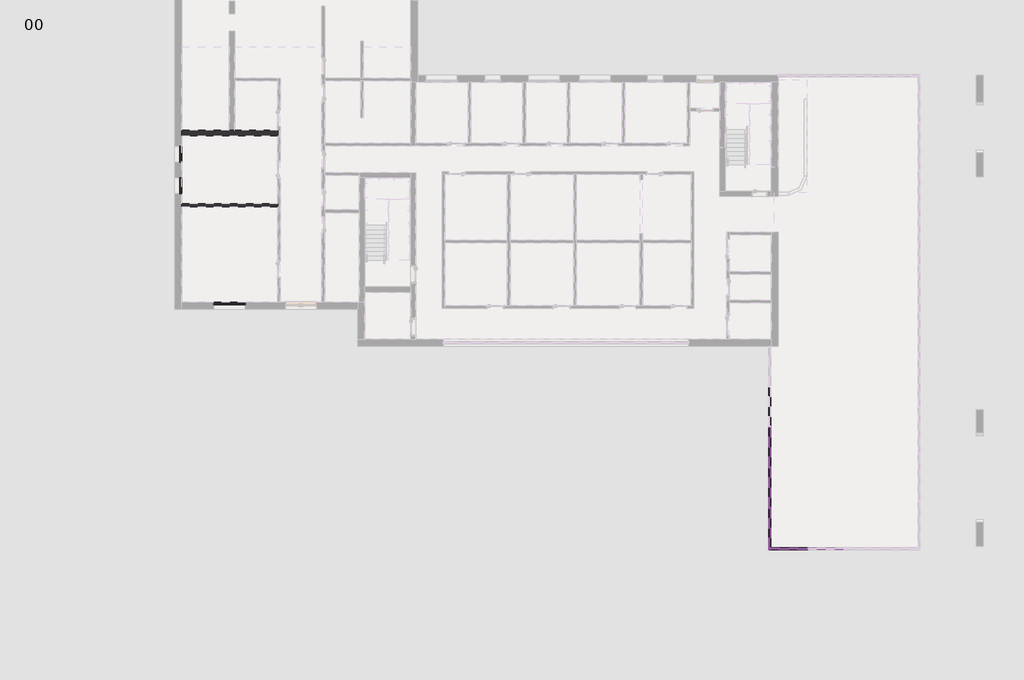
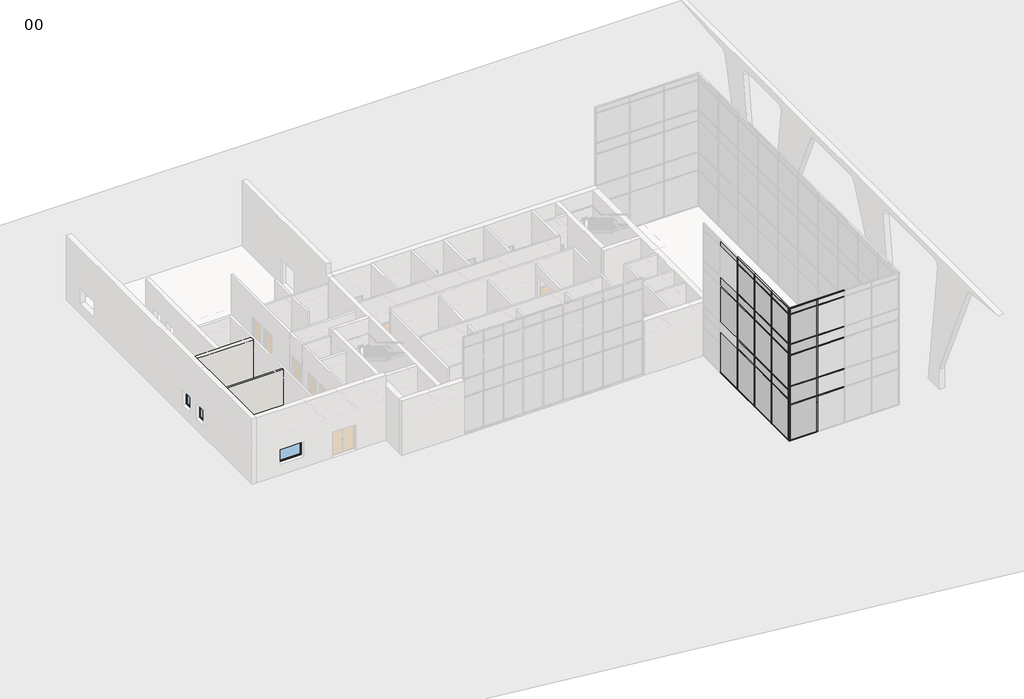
# One storey, part 1 of 11: 77 members, 28 plates, 3 windows, 2 walls.
"""IFC4 building model written with IfcOpenShell, lengths in millimetres."""

from ifc_helpers import new_model, si_unit, origin, origin_with_axes, place, context, project, spatial, polyline, outline, extrude, faceted_brep, transform, mapped, element, save
from components import rectangular_mullion_curtainwallmullion_rectangular_generic_8ae0e668, rectangular_mullion_curtainwallmullion_rectangular_generic_15c16c91, rectangular_mullion_curtainwallmullion_rectangular_generic_85ff6675, rectangular_mullion_curtainwallmullion_rectangular_generic_08fbcc14, rectangular_mullion_curtainwallmullion_rectangular_generic_83e55909, rectangular_mullion_curtainwallmullion_rectangular_generic_672c12ae, rectangular_mullion_curtainwallmullion_rectangular_generic_d5294c93, rectangular_mullion_curtainwallmullion_rectangular_generic_779ca808, rectangular_mullion_curtainwallmullion_rectangular_generic_5675a122, rectangular_mullion_curtainwallmullion_rectangular_generic_397fb318, rectangular_mullion_curtainwallmullion_rectangular_generic_8792b306, rectangular_mullion_curtainwallmullion_rectangular_generic_adcf4dab, rectangular_mullion_curtainwallmullion_rectangular_generic_bca74f28, rectangular_mullion_curtainwallmullion_rectangular_generic_1467ba8b, rectangular_mullion_curtainwallmullion_rectangular_generic_f1446028, rectangular_mullion_curtainwallmullion_rectangular_generic_0700f4c6, rectangular_mullion_curtainwallmullion_rectangular_generic_cb270087, rectangular_mullion_curtainwallmullion_rectangular_generic_974284e1, rectangular_mullion_curtainwallmullion_rectangular_generic_25199054, rectangular_mullion_curtainwallmullion_rectangular_generic_3fcc00f2, rectangular_mullion_curtainwallmullion_rectangular_generic_766165b3, rectangular_mullion_curtainwallmullion_rectangular_generic_b870b509, rectangular_mullion_curtainwallmullion_rectangular_generic_654ac675, rectangular_mullion_curtainwallmullion_rectangular_generic_e7c47ca9, rectangular_mullion_curtainwallmullion_rectangular_generic_c0600e94, rectangular_mullion_curtainwallmullion_rectangular_generic_3bdb59d8, rectangular_mullion_curtainwallmullion_rectangular_generic_aa8766cf, rectangular_mullion_curtainwallmullion_rectangular_generic_a50df724, rectangular_mullion_curtainwallmullion_rectangular_generic_c640f651, rectangular_mullion_curtainwallmullion_rectangular_generic_afb0b622, system_panel_curtainpanel_glazed_0bb81cda, system_panel_curtainpanel_glazed_3919c2a1, system_panel_curtainpanel_glazed_9120b6e5, system_panel_curtainpanel_glazed_c42a0534, system_panel_curtainpanel_glazed_a0842033, system_panel_curtainpanel_glazed_19b159b3, system_panel_curtainpanel_solid_62146879, system_panel_curtainpanel_solid_d52ec4f6, system_panel_curtainpanel_solid_bd7018df, system_panel_curtainpanel_solid_ebe6707a, system_panel_curtainpanel_solid_ff987cd1, windows_concept_plain_sgl_1810x1210mm_7f7241d7, windows_concept_plain_sgl_910x1210mm_ef0b7ad2

model = new_model("IFC4")

# Units and contexts
model_context = context("Model", 3, world=origin())
ifc_project = project(units=[si_unit("LENGTHUNIT", "METRE", prefix="MILLI")], contexts=[model_context])

# Site, building, storey
site = spatial("IfcSite", under=ifc_project)
building = spatial("IfcBuilding", under=site)
storey = spatial("IfcBuildingStorey", under=building, Name="00", Elevation=0.0)

# Members
placement = place(None, origin())
rectangular_mullion_curtainwallmullion_rectangular_generic_shape = rectangular_mullion_curtainwallmullion_rectangular_generic_8ae0e668(model_context)
element("IfcMember", 1, ObjectType="Rectangular Mullion : CurtainWallMullion_Rectangular_Generic", at=placement, inside=storey, context=model_context, shape_type="MappedRepresentation", body=[
    mapped(rectangular_mullion_curtainwallmullion_rectangular_generic_shape, transform((445668.3206883, -406013.8026384, 10486.7), x_axis=(0.0, 1.0, 0.0), y_axis=(1.0, 0.0, 0.0), z_axis=(0.0, 0.0, -1.0))),
])
element("IfcMember", 2, ObjectType="Rectangular Mullion : CurtainWallMullion_Rectangular_Generic", at=placement, inside=storey, context=model_context, shape_type="MappedRepresentation", body=[
    mapped(rectangular_mullion_curtainwallmullion_rectangular_generic_shape, transform((445668.3206883, -403686.6026385, 10486.7), x_axis=(0.0, 1.0, 0.0), y_axis=(1.0, 0.0, 0.0), z_axis=(0.0, 0.0, -1.0))),
])
element("IfcMember", 3, ObjectType="Rectangular Mullion : CurtainWallMullion_Rectangular_Generic", at=placement, inside=storey, context=model_context, shape_type="MappedRepresentation", body=[
    mapped(rectangular_mullion_curtainwallmullion_rectangular_generic_shape, transform((445668.3206883, -401359.4026387, 10486.7), x_axis=(0.0, 1.0, 0.0), y_axis=(1.0, 0.0, 0.0), z_axis=(0.0, 0.0, -1.0))),
])
element("IfcMember", 4, ObjectType="Rectangular Mullion : CurtainWallMullion_Rectangular_Generic", at=placement, inside=storey, context=model_context, shape_type="MappedRepresentation", body=[
    mapped(rectangular_mullion_curtainwallmullion_rectangular_generic_shape, transform((447825.3206885, -408366.0026386, 10486.7), x_axis=(-1.0, 0.0, 0.0), y_axis=(0.0, 1.0, 0.0), z_axis=(0.0, 0.0, -1.0))),
])
rectangular_mullion_curtainwallmullion_rectangular_generic_2_shape = rectangular_mullion_curtainwallmullion_rectangular_generic_15c16c91(model_context)
element("IfcMember", 5, ObjectType="Rectangular Mullion : CurtainWallMullion_Rectangular_Generic", at=placement, inside=storey, context=model_context, shape_type="MappedRepresentation", body=[
    mapped(rectangular_mullion_curtainwallmullion_rectangular_generic_2_shape, transform((445668.3206883, -408366.0026386, 10486.7), x_axis=(-1.0, 0.0, 0.0), y_axis=(0.0, 1.0, 0.0), z_axis=(0.0, 0.0, -1.0))),
])
element("IfcMember", 6, ObjectType="Rectangular Mullion : CurtainWallMullion_Rectangular_Generic", at=placement, inside=storey, context=model_context, shape_type="MappedRepresentation", body=[
    mapped(rectangular_mullion_curtainwallmullion_rectangular_generic_2_shape, transform((445668.3206883, -408366.0026386, 10950.0), x_axis=(0.0, -1.0, 0.0), y_axis=(1.0, 0.0, 0.0), z_axis=(0.0, 0.0, 1.0))),
])
rectangular_mullion_curtainwallmullion_rectangular_generic_3_shape = rectangular_mullion_curtainwallmullion_rectangular_generic_85ff6675(model_context)
element("IfcMember", 7, ObjectType="Rectangular Mullion : CurtainWallMullion_Rectangular_Generic", at=placement, inside=storey, context=model_context, shape_type="MappedRepresentation", body=[
    mapped(rectangular_mullion_curtainwallmullion_rectangular_generic_3_shape, transform((445668.3206883, -406013.8026384, 7225.0), x_axis=(0.0, 1.0, 0.0), y_axis=(1.0, 0.0, 0.0), z_axis=(0.0, 0.0, -1.0))),
])
element("IfcMember", 8, ObjectType="Rectangular Mullion : CurtainWallMullion_Rectangular_Generic", at=placement, inside=storey, context=model_context, shape_type="MappedRepresentation", body=[
    mapped(rectangular_mullion_curtainwallmullion_rectangular_generic_3_shape, transform((445668.3206883, -403686.6026385, 7225.0), x_axis=(0.0, 1.0, 0.0), y_axis=(1.0, 0.0, 0.0), z_axis=(0.0, 0.0, -1.0))),
])
element("IfcMember", 9, ObjectType="Rectangular Mullion : CurtainWallMullion_Rectangular_Generic", at=placement, inside=storey, context=model_context, shape_type="MappedRepresentation", body=[
    mapped(rectangular_mullion_curtainwallmullion_rectangular_generic_3_shape, transform((445668.3206883, -401359.4026387, 7225.0), x_axis=(0.0, 1.0, 0.0), y_axis=(1.0, 0.0, 0.0), z_axis=(0.0, 0.0, -1.0))),
])
element("IfcMember", 10, ObjectType="Rectangular Mullion : CurtainWallMullion_Rectangular_Generic", at=placement, inside=storey, context=model_context, shape_type="MappedRepresentation", body=[
    mapped(rectangular_mullion_curtainwallmullion_rectangular_generic_3_shape, transform((445668.3206883, -406013.8026384, 3425.0), x_axis=(0.0, 1.0, 0.0), y_axis=(1.0, 0.0, 0.0), z_axis=(0.0, 0.0, -1.0))),
])
element("IfcMember", 11, ObjectType="Rectangular Mullion : CurtainWallMullion_Rectangular_Generic", at=placement, inside=storey, context=model_context, shape_type="MappedRepresentation", body=[
    mapped(rectangular_mullion_curtainwallmullion_rectangular_generic_3_shape, transform((445668.3206883, -403686.6026385, 3425.0), x_axis=(0.0, 1.0, 0.0), y_axis=(1.0, 0.0, 0.0), z_axis=(0.0, 0.0, -1.0))),
])
element("IfcMember", 12, ObjectType="Rectangular Mullion : CurtainWallMullion_Rectangular_Generic", at=placement, inside=storey, context=model_context, shape_type="MappedRepresentation", body=[
    mapped(rectangular_mullion_curtainwallmullion_rectangular_generic_3_shape, transform((445668.3206883, -401359.4026387, 3425.0), x_axis=(0.0, 1.0, 0.0), y_axis=(1.0, 0.0, 0.0), z_axis=(0.0, 0.0, -1.0))),
])
rectangular_mullion_curtainwallmullion_rectangular_generic_4_shape = rectangular_mullion_curtainwallmullion_rectangular_generic_08fbcc14(model_context)
element("IfcMember", 13, ObjectType="Rectangular Mullion : CurtainWallMullion_Rectangular_Generic", at=placement, inside=storey, context=model_context, shape_type="MappedRepresentation", body=[
    mapped(rectangular_mullion_curtainwallmullion_rectangular_generic_4_shape, transform((445668.3206883, -406013.8026384, 8000.0), x_axis=(0.0, 1.0, 0.0), y_axis=(1.0, 0.0, 0.0), z_axis=(0.0, 0.0, -1.0))),
])
element("IfcMember", 14, ObjectType="Rectangular Mullion : CurtainWallMullion_Rectangular_Generic", at=placement, inside=storey, context=model_context, shape_type="MappedRepresentation", body=[
    mapped(rectangular_mullion_curtainwallmullion_rectangular_generic_4_shape, transform((445668.3206883, -403686.6026385, 8000.0), x_axis=(0.0, 1.0, 0.0), y_axis=(1.0, 0.0, 0.0), z_axis=(0.0, 0.0, -1.0))),
])
element("IfcMember", 15, ObjectType="Rectangular Mullion : CurtainWallMullion_Rectangular_Generic", at=placement, inside=storey, context=model_context, shape_type="MappedRepresentation", body=[
    mapped(rectangular_mullion_curtainwallmullion_rectangular_generic_4_shape, transform((445668.3206883, -401359.4026387, 8000.0), x_axis=(0.0, 1.0, 0.0), y_axis=(1.0, 0.0, 0.0), z_axis=(0.0, 0.0, -1.0))),
])
element("IfcMember", 16, ObjectType="Rectangular Mullion : CurtainWallMullion_Rectangular_Generic", at=placement, inside=storey, context=model_context, shape_type="MappedRepresentation", body=[
    mapped(rectangular_mullion_curtainwallmullion_rectangular_generic_4_shape, transform((447825.3206885, -408366.0026386, 8000.0), x_axis=(-1.0, 0.0, 0.0), y_axis=(0.0, 1.0, 0.0), z_axis=(0.0, 0.0, -1.0))),
])
rectangular_mullion_curtainwallmullion_rectangular_generic_5_shape = rectangular_mullion_curtainwallmullion_rectangular_generic_83e55909(model_context)
element("IfcMember", 17, ObjectType="Rectangular Mullion : CurtainWallMullion_Rectangular_Generic", at=placement, inside=storey, context=model_context, shape_type="MappedRepresentation", body=[
    mapped(rectangular_mullion_curtainwallmullion_rectangular_generic_5_shape, transform((445668.3206883, -408366.0026386, 10486.7), x_axis=(0.0, -1.0, 0.0), y_axis=(1.0, 0.0, 0.0), z_axis=(0.0, 0.0, 1.0))),
])
element("IfcMember", 18, ObjectType="Rectangular Mullion : CurtainWallMullion_Rectangular_Generic", at=placement, inside=storey, context=model_context, shape_type="MappedRepresentation", body=[
    mapped(rectangular_mullion_curtainwallmullion_rectangular_generic_5_shape, transform((445668.3206883, -408366.0026386, 8000.0), x_axis=(-1.0, 0.0, 0.0), y_axis=(0.0, 1.0, 0.0), z_axis=(0.0, 0.0, -1.0))),
])
rectangular_mullion_curtainwallmullion_rectangular_generic_6_shape = rectangular_mullion_curtainwallmullion_rectangular_generic_672c12ae(model_context)
element("IfcMember", 19, ObjectType="Rectangular Mullion : CurtainWallMullion_Rectangular_Generic", at=placement, inside=storey, context=model_context, shape_type="MappedRepresentation", body=[
    mapped(rectangular_mullion_curtainwallmullion_rectangular_generic_6_shape, transform((445668.3206883, -408366.0026386, 4200.0), x_axis=(0.0, -1.0, 0.0), y_axis=(1.0, 0.0, 0.0), z_axis=(0.0, 0.0, 1.0))),
])
element("IfcMember", 20, ObjectType="Rectangular Mullion : CurtainWallMullion_Rectangular_Generic", at=placement, inside=storey, context=model_context, shape_type="MappedRepresentation", body=[
    mapped(rectangular_mullion_curtainwallmullion_rectangular_generic_6_shape, transform((445668.3206883, -408366.0026386, 8000.0), x_axis=(0.0, -1.0, 0.0), y_axis=(1.0, 0.0, 0.0), z_axis=(0.0, 0.0, 1.0))),
])
rectangular_mullion_curtainwallmullion_rectangular_generic_7_shape = rectangular_mullion_curtainwallmullion_rectangular_generic_d5294c93(model_context)
element("IfcMember", 21, ObjectType="Rectangular Mullion : CurtainWallMullion_Rectangular_Generic", at=placement, inside=storey, context=model_context, shape_type="MappedRepresentation", body=[
    mapped(rectangular_mullion_curtainwallmullion_rectangular_generic_7_shape, transform((447825.3206885, -408366.0026386, 50.0), x_axis=(-1.0, 0.0, 0.0), y_axis=(0.0, 1.0, 0.0), z_axis=(0.0, 0.0, -1.0))),
])
rectangular_mullion_curtainwallmullion_rectangular_generic_8_shape = rectangular_mullion_curtainwallmullion_rectangular_generic_779ca808(model_context)
element("IfcMember", 22, ObjectType="Rectangular Mullion : CurtainWallMullion_Rectangular_Generic", at=placement, inside=storey, context=model_context, shape_type="MappedRepresentation", body=[
    mapped(rectangular_mullion_curtainwallmullion_rectangular_generic_8_shape, transform((445668.3206883, -408366.0026386, 50.0), x_axis=(-1.0, 0.0, 0.0), y_axis=(0.0, 1.0, 0.0), z_axis=(0.0, 0.0, -1.0))),
])
rectangular_mullion_curtainwallmullion_rectangular_generic_9_shape = rectangular_mullion_curtainwallmullion_rectangular_generic_5675a122(model_context)
element("IfcMember", 23, ObjectType="Rectangular Mullion : CurtainWallMullion_Rectangular_Generic", at=placement, inside=storey, context=model_context, shape_type="MappedRepresentation", body=[
    mapped(rectangular_mullion_curtainwallmullion_rectangular_generic_9_shape, transform((445668.3206883, -406013.8026384, 50.0), x_axis=(0.0, 1.0, 0.0), y_axis=(1.0, 0.0, 0.0), z_axis=(0.0, 0.0, -1.0))),
])
element("IfcMember", 24, ObjectType="Rectangular Mullion : CurtainWallMullion_Rectangular_Generic", at=placement, inside=storey, context=model_context, shape_type="MappedRepresentation", body=[
    mapped(rectangular_mullion_curtainwallmullion_rectangular_generic_9_shape, transform((445668.3206883, -403686.6026385, 50.0), x_axis=(0.0, 1.0, 0.0), y_axis=(1.0, 0.0, 0.0), z_axis=(0.0, 0.0, -1.0))),
])
element("IfcMember", 25, ObjectType="Rectangular Mullion : CurtainWallMullion_Rectangular_Generic", at=placement, inside=storey, context=model_context, shape_type="MappedRepresentation", body=[
    mapped(rectangular_mullion_curtainwallmullion_rectangular_generic_9_shape, transform((445668.3206883, -401359.4026387, 50.0), x_axis=(0.0, 1.0, 0.0), y_axis=(1.0, 0.0, 0.0), z_axis=(0.0, 0.0, -1.0))),
])
rectangular_mullion_curtainwallmullion_rectangular_generic_10_shape = rectangular_mullion_curtainwallmullion_rectangular_generic_397fb318(model_context)
element("IfcMember", 26, ObjectType="Rectangular Mullion : CurtainWallMullion_Rectangular_Generic", at=placement, inside=storey, context=model_context, shape_type="MappedRepresentation", body=[
    mapped(rectangular_mullion_curtainwallmullion_rectangular_generic_10_shape, transform((445668.3206883, -408366.0026386, 2425.0), x_axis=(0.0, -1.0, 0.0), y_axis=(1.0, 0.0, 0.0), z_axis=(0.0, 0.0, 1.0))),
])
rectangular_mullion_curtainwallmullion_rectangular_generic_11_shape = rectangular_mullion_curtainwallmullion_rectangular_generic_8792b306(model_context)
element("IfcMember", 27, ObjectType="Rectangular Mullion : CurtainWallMullion_Rectangular_Generic", at=placement, inside=storey, context=model_context, shape_type="MappedRepresentation", body=[
    mapped(rectangular_mullion_curtainwallmullion_rectangular_generic_11_shape, transform((445668.3206883, -406013.8026384, 4200.0), x_axis=(0.0, 1.0, 0.0), y_axis=(1.0, 0.0, 0.0), z_axis=(0.0, 0.0, -1.0))),
])
element("IfcMember", 28, ObjectType="Rectangular Mullion : CurtainWallMullion_Rectangular_Generic", at=placement, inside=storey, context=model_context, shape_type="MappedRepresentation", body=[
    mapped(rectangular_mullion_curtainwallmullion_rectangular_generic_11_shape, transform((445668.3206883, -403686.6026385, 4200.0), x_axis=(0.0, 1.0, 0.0), y_axis=(1.0, 0.0, 0.0), z_axis=(0.0, 0.0, -1.0))),
])
element("IfcMember", 29, ObjectType="Rectangular Mullion : CurtainWallMullion_Rectangular_Generic", at=placement, inside=storey, context=model_context, shape_type="MappedRepresentation", body=[
    mapped(rectangular_mullion_curtainwallmullion_rectangular_generic_11_shape, transform((445668.3206883, -401359.4026387, 4200.0), x_axis=(0.0, 1.0, 0.0), y_axis=(1.0, 0.0, 0.0), z_axis=(0.0, 0.0, -1.0))),
])
rectangular_mullion_curtainwallmullion_rectangular_generic_12_shape = rectangular_mullion_curtainwallmullion_rectangular_generic_adcf4dab(model_context)
element("IfcMember", 30, ObjectType="Rectangular Mullion : CurtainWallMullion_Rectangular_Generic", at=placement, inside=storey, context=model_context, shape_type="MappedRepresentation", body=[
    mapped(rectangular_mullion_curtainwallmullion_rectangular_generic_12_shape, transform((445668.3206883, -408366.0026386, 7225.0), x_axis=(0.0, -1.0, 0.0), y_axis=(1.0, 0.0, 0.0), z_axis=(0.0, 0.0, 1.0))),
])
rectangular_mullion_curtainwallmullion_rectangular_generic_13_shape = rectangular_mullion_curtainwallmullion_rectangular_generic_bca74f28(model_context)
element("IfcMember", 31, ObjectType="Rectangular Mullion : CurtainWallMullion_Rectangular_Generic", at=placement, inside=storey, context=model_context, shape_type="MappedRepresentation", body=[
    mapped(rectangular_mullion_curtainwallmullion_rectangular_generic_13_shape, transform((445668.3206883, -406013.8026384, 2425.0), x_axis=(0.0, 1.0, 0.0), y_axis=(1.0, 0.0, 0.0), z_axis=(0.0, 0.0, -1.0))),
])
element("IfcMember", 32, ObjectType="Rectangular Mullion : CurtainWallMullion_Rectangular_Generic", at=placement, inside=storey, context=model_context, shape_type="MappedRepresentation", body=[
    mapped(rectangular_mullion_curtainwallmullion_rectangular_generic_13_shape, transform((445668.3206883, -403686.6026385, 2425.0), x_axis=(0.0, 1.0, 0.0), y_axis=(1.0, 0.0, 0.0), z_axis=(0.0, 0.0, -1.0))),
])
element("IfcMember", 33, ObjectType="Rectangular Mullion : CurtainWallMullion_Rectangular_Generic", at=placement, inside=storey, context=model_context, shape_type="MappedRepresentation", body=[
    mapped(rectangular_mullion_curtainwallmullion_rectangular_generic_13_shape, transform((445668.3206883, -401359.4026387, 2425.0), x_axis=(0.0, 1.0, 0.0), y_axis=(1.0, 0.0, 0.0), z_axis=(0.0, 0.0, -1.0))),
])
rectangular_mullion_curtainwallmullion_rectangular_generic_14_shape = rectangular_mullion_curtainwallmullion_rectangular_generic_1467ba8b(model_context)
element("IfcMember", 34, ObjectType="Rectangular Mullion : CurtainWallMullion_Rectangular_Generic", at=placement, inside=storey, context=model_context, shape_type="MappedRepresentation", body=[
    mapped(rectangular_mullion_curtainwallmullion_rectangular_generic_14_shape, transform((445668.3206883, -408366.0026386, 3425.0), x_axis=(0.0, -1.0, 0.0), y_axis=(1.0, 0.0, 0.0), z_axis=(0.0, 0.0, 1.0))),
])
rectangular_mullion_curtainwallmullion_rectangular_generic_15_shape = rectangular_mullion_curtainwallmullion_rectangular_generic_f1446028(model_context)
element("IfcMember", 35, ObjectType="Rectangular Mullion : CurtainWallMullion_Rectangular_Generic", at=placement, inside=storey, context=model_context, shape_type="MappedRepresentation", body=[
    mapped(rectangular_mullion_curtainwallmullion_rectangular_generic_15_shape, transform((445668.3206883, -408366.0026386, 11000.0), x_axis=(0.0, 0.0, 1.0), y_axis=(0.0, 1.0, 0.0), z_axis=(-1.0, 0.0, 0.0))),
])
rectangular_mullion_curtainwallmullion_rectangular_generic_16_shape = rectangular_mullion_curtainwallmullion_rectangular_generic_0700f4c6(model_context)
element("IfcMember", 36, ObjectType="Rectangular Mullion : CurtainWallMullion_Rectangular_Generic", at=placement, inside=storey, context=model_context, shape_type="MappedRepresentation", body=[
    mapped(rectangular_mullion_curtainwallmullion_rectangular_generic_16_shape, transform((445668.3206883, -406013.8026384, 11000.0), x_axis=(0.0, 0.0, 1.0), y_axis=(1.0, 0.0, 0.0), z_axis=(0.0, 1.0, 0.0))),
])
rectangular_mullion_curtainwallmullion_rectangular_generic_17_shape = rectangular_mullion_curtainwallmullion_rectangular_generic_cb270087(model_context)
element("IfcMember", 37, ObjectType="Rectangular Mullion : CurtainWallMullion_Rectangular_Generic", at=placement, inside=storey, context=model_context, shape_type="MappedRepresentation", body=[
    mapped(rectangular_mullion_curtainwallmullion_rectangular_generic_17_shape, transform((447825.3206885, -408366.0026386, 11000.0), x_axis=(0.0, 0.0, 1.0), y_axis=(0.0, 1.0, 0.0), z_axis=(-1.0, 0.0, 0.0))),
])
rectangular_mullion_curtainwallmullion_rectangular_generic_18_shape = rectangular_mullion_curtainwallmullion_rectangular_generic_974284e1(model_context)
element("IfcMember", 38, ObjectType="Rectangular Mullion : CurtainWallMullion_Rectangular_Generic", at=placement, inside=storey, context=model_context, shape_type="MappedRepresentation", body=[
    mapped(rectangular_mullion_curtainwallmullion_rectangular_generic_18_shape, transform((447850.3206885, -408366.0026386, 4500.0), x_axis=(0.0, 0.0, 1.0), y_axis=(0.0, 1.0, 0.0), z_axis=(-1.0, 0.0, 0.0))),
])
element("IfcMember", 39, ObjectType="Rectangular Mullion : CurtainWallMullion_Rectangular_Generic", at=placement, inside=storey, context=model_context, shape_type="MappedRepresentation", body=[
    mapped(rectangular_mullion_curtainwallmullion_rectangular_generic_18_shape, transform((447850.3206885, -408366.0026386, 7100.0), x_axis=(0.0, 0.0, 1.0), y_axis=(0.0, 1.0, 0.0), z_axis=(-1.0, 0.0, 0.0))),
])
element("IfcMember", 40, ObjectType="Rectangular Mullion : CurtainWallMullion_Rectangular_Generic", at=placement, inside=storey, context=model_context, shape_type="MappedRepresentation", body=[
    mapped(rectangular_mullion_curtainwallmullion_rectangular_generic_18_shape, transform((447850.3206885, -408366.0026386, 10486.7), x_axis=(0.0, 0.0, 1.0), y_axis=(0.0, 1.0, 0.0), z_axis=(-1.0, 0.0, 0.0))),
])
element("IfcMember", 41, ObjectType="Rectangular Mullion : CurtainWallMullion_Rectangular_Generic", at=placement, inside=storey, context=model_context, shape_type="MappedRepresentation", body=[
    mapped(rectangular_mullion_curtainwallmullion_rectangular_generic_18_shape, transform((447850.3206885, -408366.0026386, 3000.0), x_axis=(0.0, 0.0, 1.0), y_axis=(0.0, 1.0, 0.0), z_axis=(-1.0, 0.0, 0.0))),
])
element("IfcMember", 42, ObjectType="Rectangular Mullion : CurtainWallMullion_Rectangular_Generic", at=placement, inside=storey, context=model_context, shape_type="MappedRepresentation", body=[
    mapped(rectangular_mullion_curtainwallmullion_rectangular_generic_18_shape, transform((447850.3206885, -408366.0026386, 8000.0), x_axis=(0.0, 0.0, 1.0), y_axis=(0.0, 1.0, 0.0), z_axis=(-1.0, 0.0, 0.0))),
])
element("IfcMember", 43, ObjectType="Rectangular Mullion : CurtainWallMullion_Rectangular_Generic", at=placement, inside=storey, context=model_context, shape_type="MappedRepresentation", body=[
    mapped(rectangular_mullion_curtainwallmullion_rectangular_generic_18_shape, transform((445718.3206883, -408366.0026386, 4500.0), x_axis=(0.0, 0.0, 1.0), y_axis=(0.0, 1.0, 0.0), z_axis=(-1.0, 0.0, 0.0))),
])
element("IfcMember", 44, ObjectType="Rectangular Mullion : CurtainWallMullion_Rectangular_Generic", at=placement, inside=storey, context=model_context, shape_type="MappedRepresentation", body=[
    mapped(rectangular_mullion_curtainwallmullion_rectangular_generic_18_shape, transform((445718.3206883, -408366.0026386, 7100.0), x_axis=(0.0, 0.0, 1.0), y_axis=(0.0, 1.0, 0.0), z_axis=(-1.0, 0.0, 0.0))),
])
element("IfcMember", 45, ObjectType="Rectangular Mullion : CurtainWallMullion_Rectangular_Generic", at=placement, inside=storey, context=model_context, shape_type="MappedRepresentation", body=[
    mapped(rectangular_mullion_curtainwallmullion_rectangular_generic_18_shape, transform((445718.3206883, -408366.0026386, 10486.7), x_axis=(0.0, 0.0, 1.0), y_axis=(0.0, 1.0, 0.0), z_axis=(-1.0, 0.0, 0.0))),
])
element("IfcMember", 46, ObjectType="Rectangular Mullion : CurtainWallMullion_Rectangular_Generic", at=placement, inside=storey, context=model_context, shape_type="MappedRepresentation", body=[
    mapped(rectangular_mullion_curtainwallmullion_rectangular_generic_18_shape, transform((445718.3206883, -408366.0026386, 3000.0), x_axis=(0.0, 0.0, 1.0), y_axis=(0.0, 1.0, 0.0), z_axis=(-1.0, 0.0, 0.0))),
])
element("IfcMember", 47, ObjectType="Rectangular Mullion : CurtainWallMullion_Rectangular_Generic", at=placement, inside=storey, context=model_context, shape_type="MappedRepresentation", body=[
    mapped(rectangular_mullion_curtainwallmullion_rectangular_generic_18_shape, transform((445718.3206883, -408366.0026386, 8000.0), x_axis=(0.0, 0.0, 1.0), y_axis=(0.0, 1.0, 0.0), z_axis=(-1.0, 0.0, 0.0))),
])
rectangular_mullion_curtainwallmullion_rectangular_generic_19_shape = rectangular_mullion_curtainwallmullion_rectangular_generic_25199054(model_context)
element("IfcMember", 48, ObjectType="Rectangular Mullion : CurtainWallMullion_Rectangular_Generic", at=placement, inside=storey, context=model_context, shape_type="MappedRepresentation", body=[
    mapped(rectangular_mullion_curtainwallmullion_rectangular_generic_19_shape, transform((447825.3206885, -408366.0026386, 0.0), x_axis=(0.0, 0.0, -1.0), y_axis=(0.0, 1.0, 0.0), z_axis=(1.0, 0.0, 0.0))),
])
rectangular_mullion_curtainwallmullion_rectangular_generic_20_shape = rectangular_mullion_curtainwallmullion_rectangular_generic_3fcc00f2(model_context)
element("IfcMember", 49, ObjectType="Rectangular Mullion : CurtainWallMullion_Rectangular_Generic", at=placement, inside=storey, context=model_context, shape_type="MappedRepresentation", body=[
    mapped(rectangular_mullion_curtainwallmullion_rectangular_generic_20_shape, transform((445668.3206883, -408366.0026386, 0.0), x_axis=(0.0, 0.0, -1.0), y_axis=(1.0, 0.0, 0.0), z_axis=(0.0, -1.0, 0.0))),
])
rectangular_mullion_curtainwallmullion_rectangular_generic_21_shape = rectangular_mullion_curtainwallmullion_rectangular_generic_766165b3(model_context)
element("IfcMember", 50, ObjectType="Rectangular Mullion : CurtainWallMullion_Rectangular_Generic", at=placement, inside=storey, context=model_context, shape_type="MappedRepresentation", body=[
    mapped(rectangular_mullion_curtainwallmullion_rectangular_generic_21_shape, transform((445668.3206883, -403686.6026385, 11000.0), x_axis=(0.0, 0.0, 1.0), y_axis=(1.0, 0.0, 0.0), z_axis=(0.0, 1.0, 0.0))),
])
element("IfcMember", 51, ObjectType="Rectangular Mullion : CurtainWallMullion_Rectangular_Generic", at=placement, inside=storey, context=model_context, shape_type="MappedRepresentation", body=[
    mapped(rectangular_mullion_curtainwallmullion_rectangular_generic_21_shape, transform((445668.3206883, -401359.4026387, 11000.0), x_axis=(0.0, 0.0, 1.0), y_axis=(1.0, 0.0, 0.0), z_axis=(0.0, 1.0, 0.0))),
])
element("IfcMember", 52, ObjectType="Rectangular Mullion : CurtainWallMullion_Rectangular_Generic", at=placement, inside=storey, context=model_context, shape_type="MappedRepresentation", body=[
    mapped(rectangular_mullion_curtainwallmullion_rectangular_generic_21_shape, transform((445668.3206883, -406013.8026384, 0.0), x_axis=(0.0, 0.0, -1.0), y_axis=(1.0, 0.0, 0.0), z_axis=(0.0, -1.0, 0.0))),
])
element("IfcMember", 53, ObjectType="Rectangular Mullion : CurtainWallMullion_Rectangular_Generic", at=placement, inside=storey, context=model_context, shape_type="MappedRepresentation", body=[
    mapped(rectangular_mullion_curtainwallmullion_rectangular_generic_21_shape, transform((445668.3206883, -403686.6026385, 0.0), x_axis=(0.0, 0.0, -1.0), y_axis=(1.0, 0.0, 0.0), z_axis=(0.0, -1.0, 0.0))),
])
element("IfcMember", 54, ObjectType="Rectangular Mullion : CurtainWallMullion_Rectangular_Generic", at=placement, inside=storey, context=model_context, shape_type="MappedRepresentation", body=[
    mapped(rectangular_mullion_curtainwallmullion_rectangular_generic_21_shape, transform((445668.3206883, -401359.4026387, 0.0), x_axis=(0.0, 0.0, -1.0), y_axis=(1.0, 0.0, 0.0), z_axis=(0.0, -1.0, 0.0))),
])
rectangular_mullion_curtainwallmullion_rectangular_generic_22_shape = rectangular_mullion_curtainwallmullion_rectangular_generic_b870b509(model_context)
element("IfcMember", 55, ObjectType="Rectangular Mullion : CurtainWallMullion_Rectangular_Generic", at=placement, inside=storey, context=model_context, shape_type="MappedRepresentation", body=[
    mapped(rectangular_mullion_curtainwallmullion_rectangular_generic_22_shape, transform((445668.3206883, -406038.8026384, 4200.0), x_axis=(0.0, 0.0, 1.0), y_axis=(1.0, 0.0, 0.0), z_axis=(0.0, 1.0, 0.0))),
])
element("IfcMember", 56, ObjectType="Rectangular Mullion : CurtainWallMullion_Rectangular_Generic", at=placement, inside=storey, context=model_context, shape_type="MappedRepresentation", body=[
    mapped(rectangular_mullion_curtainwallmullion_rectangular_generic_22_shape, transform((445668.3206883, -403711.6026385, 4200.0), x_axis=(0.0, 0.0, 1.0), y_axis=(1.0, 0.0, 0.0), z_axis=(0.0, 1.0, 0.0))),
])
element("IfcMember", 57, ObjectType="Rectangular Mullion : CurtainWallMullion_Rectangular_Generic", at=placement, inside=storey, context=model_context, shape_type="MappedRepresentation", body=[
    mapped(rectangular_mullion_curtainwallmullion_rectangular_generic_22_shape, transform((445668.3206883, -401384.4026387, 4200.0), x_axis=(0.0, 0.0, 1.0), y_axis=(1.0, 0.0, 0.0), z_axis=(0.0, 1.0, 0.0))),
])
element("IfcMember", 58, ObjectType="Rectangular Mullion : CurtainWallMullion_Rectangular_Generic", at=placement, inside=storey, context=model_context, shape_type="MappedRepresentation", body=[
    mapped(rectangular_mullion_curtainwallmullion_rectangular_generic_22_shape, transform((445668.3206883, -406038.8026384, 7225.0), x_axis=(0.0, 0.0, 1.0), y_axis=(1.0, 0.0, 0.0), z_axis=(0.0, 1.0, 0.0))),
])
element("IfcMember", 59, ObjectType="Rectangular Mullion : CurtainWallMullion_Rectangular_Generic", at=placement, inside=storey, context=model_context, shape_type="MappedRepresentation", body=[
    mapped(rectangular_mullion_curtainwallmullion_rectangular_generic_22_shape, transform((445668.3206883, -403711.6026385, 7225.0), x_axis=(0.0, 0.0, 1.0), y_axis=(1.0, 0.0, 0.0), z_axis=(0.0, 1.0, 0.0))),
])
element("IfcMember", 60, ObjectType="Rectangular Mullion : CurtainWallMullion_Rectangular_Generic", at=placement, inside=storey, context=model_context, shape_type="MappedRepresentation", body=[
    mapped(rectangular_mullion_curtainwallmullion_rectangular_generic_22_shape, transform((445668.3206883, -401384.4026387, 7225.0), x_axis=(0.0, 0.0, 1.0), y_axis=(1.0, 0.0, 0.0), z_axis=(0.0, 1.0, 0.0))),
])
element("IfcMember", 61, ObjectType="Rectangular Mullion : CurtainWallMullion_Rectangular_Generic", at=placement, inside=storey, context=model_context, shape_type="MappedRepresentation", body=[
    mapped(rectangular_mullion_curtainwallmullion_rectangular_generic_22_shape, transform((445668.3206883, -406038.8026384, 10486.7), x_axis=(0.0, 0.0, 1.0), y_axis=(1.0, 0.0, 0.0), z_axis=(0.0, 1.0, 0.0))),
])
element("IfcMember", 62, ObjectType="Rectangular Mullion : CurtainWallMullion_Rectangular_Generic", at=placement, inside=storey, context=model_context, shape_type="MappedRepresentation", body=[
    mapped(rectangular_mullion_curtainwallmullion_rectangular_generic_22_shape, transform((445668.3206883, -403711.6026385, 10486.7), x_axis=(0.0, 0.0, 1.0), y_axis=(1.0, 0.0, 0.0), z_axis=(0.0, 1.0, 0.0))),
])
element("IfcMember", 63, ObjectType="Rectangular Mullion : CurtainWallMullion_Rectangular_Generic", at=placement, inside=storey, context=model_context, shape_type="MappedRepresentation", body=[
    mapped(rectangular_mullion_curtainwallmullion_rectangular_generic_22_shape, transform((445668.3206883, -401384.4026387, 10486.7), x_axis=(0.0, 0.0, 1.0), y_axis=(1.0, 0.0, 0.0), z_axis=(0.0, 1.0, 0.0))),
])
element("IfcMember", 64, ObjectType="Rectangular Mullion : CurtainWallMullion_Rectangular_Generic", at=placement, inside=storey, context=model_context, shape_type="MappedRepresentation", body=[
    mapped(rectangular_mullion_curtainwallmullion_rectangular_generic_22_shape, transform((445668.3206883, -406038.8026384, 3425.0), x_axis=(0.0, 0.0, 1.0), y_axis=(1.0, 0.0, 0.0), z_axis=(0.0, 1.0, 0.0))),
])
element("IfcMember", 65, ObjectType="Rectangular Mullion : CurtainWallMullion_Rectangular_Generic", at=placement, inside=storey, context=model_context, shape_type="MappedRepresentation", body=[
    mapped(rectangular_mullion_curtainwallmullion_rectangular_generic_22_shape, transform((445668.3206883, -403711.6026385, 3425.0), x_axis=(0.0, 0.0, 1.0), y_axis=(1.0, 0.0, 0.0), z_axis=(0.0, 1.0, 0.0))),
])
element("IfcMember", 66, ObjectType="Rectangular Mullion : CurtainWallMullion_Rectangular_Generic", at=placement, inside=storey, context=model_context, shape_type="MappedRepresentation", body=[
    mapped(rectangular_mullion_curtainwallmullion_rectangular_generic_22_shape, transform((445668.3206883, -401384.4026387, 3425.0), x_axis=(0.0, 0.0, 1.0), y_axis=(1.0, 0.0, 0.0), z_axis=(0.0, 1.0, 0.0))),
])
element("IfcMember", 67, ObjectType="Rectangular Mullion : CurtainWallMullion_Rectangular_Generic", at=placement, inside=storey, context=model_context, shape_type="MappedRepresentation", body=[
    mapped(rectangular_mullion_curtainwallmullion_rectangular_generic_22_shape, transform((445668.3206883, -406038.8026384, 8000.0), x_axis=(0.0, 0.0, 1.0), y_axis=(1.0, 0.0, 0.0), z_axis=(0.0, 1.0, 0.0))),
])
element("IfcMember", 68, ObjectType="Rectangular Mullion : CurtainWallMullion_Rectangular_Generic", at=placement, inside=storey, context=model_context, shape_type="MappedRepresentation", body=[
    mapped(rectangular_mullion_curtainwallmullion_rectangular_generic_22_shape, transform((445668.3206883, -403711.6026385, 8000.0), x_axis=(0.0, 0.0, 1.0), y_axis=(1.0, 0.0, 0.0), z_axis=(0.0, 1.0, 0.0))),
])
element("IfcMember", 69, ObjectType="Rectangular Mullion : CurtainWallMullion_Rectangular_Generic", at=placement, inside=storey, context=model_context, shape_type="MappedRepresentation", body=[
    mapped(rectangular_mullion_curtainwallmullion_rectangular_generic_22_shape, transform((445668.3206883, -401384.4026387, 8000.0), x_axis=(0.0, 0.0, 1.0), y_axis=(1.0, 0.0, 0.0), z_axis=(0.0, 1.0, 0.0))),
])
rectangular_mullion_curtainwallmullion_rectangular_generic_23_shape = rectangular_mullion_curtainwallmullion_rectangular_generic_654ac675(model_context)
element("IfcMember", 70, ObjectType="Rectangular Mullion : CurtainWallMullion_Rectangular_Generic", at=placement, inside=storey, context=model_context, shape_type="MappedRepresentation", body=[
    mapped(rectangular_mullion_curtainwallmullion_rectangular_generic_23_shape, transform((447825.3206885, -408366.0026386, 4500.0), x_axis=(-1.0, 0.0, 0.0), y_axis=(0.0, 1.0, 0.0), z_axis=(0.0, 0.0, -1.0))),
])
rectangular_mullion_curtainwallmullion_rectangular_generic_24_shape = rectangular_mullion_curtainwallmullion_rectangular_generic_e7c47ca9(model_context)
element("IfcMember", 71, ObjectType="Rectangular Mullion : CurtainWallMullion_Rectangular_Generic", at=placement, inside=storey, context=model_context, shape_type="MappedRepresentation", body=[
    mapped(rectangular_mullion_curtainwallmullion_rectangular_generic_24_shape, transform((445668.3206883, -408366.0026386, 4500.0), x_axis=(-1.0, 0.0, 0.0), y_axis=(0.0, 1.0, 0.0), z_axis=(0.0, 0.0, -1.0))),
])
rectangular_mullion_curtainwallmullion_rectangular_generic_25_shape = rectangular_mullion_curtainwallmullion_rectangular_generic_c0600e94(model_context)
element("IfcMember", 72, ObjectType="Rectangular Mullion : CurtainWallMullion_Rectangular_Generic", at=placement, inside=storey, context=model_context, shape_type="MappedRepresentation", body=[
    mapped(rectangular_mullion_curtainwallmullion_rectangular_generic_25_shape, transform((447825.3206885, -408366.0026386, 3000.0), x_axis=(-1.0, 0.0, 0.0), y_axis=(0.0, 1.0, 0.0), z_axis=(0.0, 0.0, -1.0))),
])
rectangular_mullion_curtainwallmullion_rectangular_generic_26_shape = rectangular_mullion_curtainwallmullion_rectangular_generic_3bdb59d8(model_context)
element("IfcMember", 73, ObjectType="Rectangular Mullion : CurtainWallMullion_Rectangular_Generic", at=placement, inside=storey, context=model_context, shape_type="MappedRepresentation", body=[
    mapped(rectangular_mullion_curtainwallmullion_rectangular_generic_26_shape, transform((445668.3206883, -408366.0026386, 3000.0), x_axis=(-1.0, 0.0, 0.0), y_axis=(0.0, 1.0, 0.0), z_axis=(0.0, 0.0, -1.0))),
])
rectangular_mullion_curtainwallmullion_rectangular_generic_27_shape = rectangular_mullion_curtainwallmullion_rectangular_generic_aa8766cf(model_context)
element("IfcMember", 74, ObjectType="Rectangular Mullion : CurtainWallMullion_Rectangular_Generic", at=placement, inside=storey, context=model_context, shape_type="MappedRepresentation", body=[
    mapped(rectangular_mullion_curtainwallmullion_rectangular_generic_27_shape, transform((447825.3206885, -408366.0026386, 2450.0), x_axis=(-1.0, 0.0, 0.0), y_axis=(0.0, 1.0, 0.0), z_axis=(0.0, 0.0, -1.0))),
])
rectangular_mullion_curtainwallmullion_rectangular_generic_28_shape = rectangular_mullion_curtainwallmullion_rectangular_generic_a50df724(model_context)
element("IfcMember", 75, ObjectType="Rectangular Mullion : CurtainWallMullion_Rectangular_Generic", at=placement, inside=storey, context=model_context, shape_type="MappedRepresentation", body=[
    mapped(rectangular_mullion_curtainwallmullion_rectangular_generic_28_shape, transform((445668.3206883, -408366.0026386, 2450.0), x_axis=(-1.0, 0.0, 0.0), y_axis=(0.0, 1.0, 0.0), z_axis=(0.0, 0.0, -1.0))),
])
rectangular_mullion_curtainwallmullion_rectangular_generic_29_shape = rectangular_mullion_curtainwallmullion_rectangular_generic_c640f651(model_context)
element("IfcMember", 76, ObjectType="Rectangular Mullion : CurtainWallMullion_Rectangular_Generic", at=placement, inside=storey, context=model_context, shape_type="MappedRepresentation", body=[
    mapped(rectangular_mullion_curtainwallmullion_rectangular_generic_29_shape, transform((447825.3206885, -408366.0026386, 7100.0), x_axis=(-1.0, 0.0, 0.0), y_axis=(0.0, 1.0, 0.0), z_axis=(0.0, 0.0, -1.0))),
])
rectangular_mullion_curtainwallmullion_rectangular_generic_30_shape = rectangular_mullion_curtainwallmullion_rectangular_generic_afb0b622(model_context)
element("IfcMember", 77, ObjectType="Rectangular Mullion : CurtainWallMullion_Rectangular_Generic", at=placement, inside=storey, context=model_context, shape_type="MappedRepresentation", body=[
    mapped(rectangular_mullion_curtainwallmullion_rectangular_generic_30_shape, transform((445668.3206883, -408366.0026386, 7100.0), x_axis=(-1.0, 0.0, 0.0), y_axis=(0.0, 1.0, 0.0), z_axis=(0.0, 0.0, -1.0))),
])

# Plates
system_panel_curtainpanel_glazed_shape = system_panel_curtainpanel_glazed_0bb81cda(model_context)
element("IfcPlate", 78, ObjectType="System Panel : CurtainPanel_Glazed", at=placement, inside=storey, context=model_context, shape_type="MappedRepresentation", body=[
    mapped(system_panel_curtainpanel_glazed_shape, transform((445668.3206883, -407177.4026385, 50.0), x_axis=(0.0, 1.0, 0.0), y_axis=(-1.0, 0.0, 0.0), z_axis=(0.0, 0.0, 1.0))),
])
element("IfcPlate", 79, ObjectType="System Panel : CurtainPanel_Glazed", at=placement, inside=storey, context=model_context, shape_type="MappedRepresentation", body=[
    mapped(system_panel_curtainpanel_glazed_shape, transform((445668.3206883, -404850.2026385, 50.0), x_axis=(0.0, 1.0, 0.0), y_axis=(-1.0, 0.0, 0.0), z_axis=(0.0, 0.0, 1.0))),
])
element("IfcPlate", 80, ObjectType="System Panel : CurtainPanel_Glazed", at=placement, inside=storey, context=model_context, shape_type="MappedRepresentation", body=[
    mapped(system_panel_curtainpanel_glazed_shape, transform((445668.3206883, -402523.0026386, 50.0), x_axis=(0.0, 1.0, 0.0), y_axis=(-1.0, 0.0, 0.0), z_axis=(0.0, 0.0, 1.0))),
])
element("IfcPlate", 81, ObjectType="System Panel : CurtainPanel_Glazed", at=placement, inside=storey, context=model_context, shape_type="MappedRepresentation", body=[
    mapped(system_panel_curtainpanel_glazed_shape, transform((445668.3206883, -400195.8026387, 50.0), x_axis=(0.0, 1.0, 0.0), y_axis=(-1.0, 0.0, 0.0), z_axis=(0.0, 0.0, 1.0))),
])
system_panel_curtainpanel_glazed_2_shape = system_panel_curtainpanel_glazed_3919c2a1(model_context)
element("IfcPlate", 82, ObjectType="System Panel : CurtainPanel_Glazed", at=placement, inside=storey, context=model_context, shape_type="MappedRepresentation", body=[
    mapped(system_panel_curtainpanel_glazed_2_shape, transform((445668.3206883, -407177.4026385, 4225.0), x_axis=(0.0, 1.0, 0.0), y_axis=(-1.0, 0.0, 0.0), z_axis=(0.0, 0.0, 1.0))),
])
element("IfcPlate", 83, ObjectType="System Panel : CurtainPanel_Glazed", at=placement, inside=storey, context=model_context, shape_type="MappedRepresentation", body=[
    mapped(system_panel_curtainpanel_glazed_2_shape, transform((445668.3206883, -404850.2026385, 4225.0), x_axis=(0.0, 1.0, 0.0), y_axis=(-1.0, 0.0, 0.0), z_axis=(0.0, 0.0, 1.0))),
])
element("IfcPlate", 84, ObjectType="System Panel : CurtainPanel_Glazed", at=placement, inside=storey, context=model_context, shape_type="MappedRepresentation", body=[
    mapped(system_panel_curtainpanel_glazed_2_shape, transform((445668.3206883, -402523.0026386, 4225.0), x_axis=(0.0, 1.0, 0.0), y_axis=(-1.0, 0.0, 0.0), z_axis=(0.0, 0.0, 1.0))),
])
element("IfcPlate", 85, ObjectType="System Panel : CurtainPanel_Glazed", at=placement, inside=storey, context=model_context, shape_type="MappedRepresentation", body=[
    mapped(system_panel_curtainpanel_glazed_2_shape, transform((445668.3206883, -400195.8026387, 4225.0), x_axis=(0.0, 1.0, 0.0), y_axis=(-1.0, 0.0, 0.0), z_axis=(0.0, 0.0, 1.0))),
])
system_panel_curtainpanel_glazed_3_shape = system_panel_curtainpanel_glazed_9120b6e5(model_context)
element("IfcPlate", 86, ObjectType="System Panel : CurtainPanel_Glazed", at=placement, inside=storey, context=model_context, shape_type="MappedRepresentation", body=[
    mapped(system_panel_curtainpanel_glazed_3_shape, transform((446759.3206884, -408366.0026386, 8025.0), x_axis=(-1.0, 0.0, 0.0), y_axis=(0.0, -1.0, 0.0), z_axis=(0.0, 0.0, 1.0))),
])
system_panel_curtainpanel_glazed_4_shape = system_panel_curtainpanel_glazed_c42a0534(model_context)
element("IfcPlate", 87, ObjectType="System Panel : CurtainPanel_Glazed", at=placement, inside=storey, context=model_context, shape_type="MappedRepresentation", body=[
    mapped(system_panel_curtainpanel_glazed_4_shape, transform((445668.3206883, -407177.4026385, 8025.0), x_axis=(0.0, 1.0, 0.0), y_axis=(-1.0, 0.0, 0.0), z_axis=(0.0, 0.0, 1.0))),
])
element("IfcPlate", 88, ObjectType="System Panel : CurtainPanel_Glazed", at=placement, inside=storey, context=model_context, shape_type="MappedRepresentation", body=[
    mapped(system_panel_curtainpanel_glazed_4_shape, transform((445668.3206883, -404850.2026385, 8025.0), x_axis=(0.0, 1.0, 0.0), y_axis=(-1.0, 0.0, 0.0), z_axis=(0.0, 0.0, 1.0))),
])
element("IfcPlate", 89, ObjectType="System Panel : CurtainPanel_Glazed", at=placement, inside=storey, context=model_context, shape_type="MappedRepresentation", body=[
    mapped(system_panel_curtainpanel_glazed_4_shape, transform((445668.3206883, -402523.0026386, 8025.0), x_axis=(0.0, 1.0, 0.0), y_axis=(-1.0, 0.0, 0.0), z_axis=(0.0, 0.0, 1.0))),
])
system_panel_curtainpanel_glazed_5_shape = system_panel_curtainpanel_glazed_a0842033(model_context)
element("IfcPlate", 90, ObjectType="System Panel : CurtainPanel_Glazed", at=placement, inside=storey, context=model_context, shape_type="MappedRepresentation", body=[
    mapped(system_panel_curtainpanel_glazed_5_shape, transform((446759.3206884, -408366.0026386, 50.0), x_axis=(-1.0, 0.0, 0.0), y_axis=(0.0, -1.0, 0.0), z_axis=(0.0, 0.0, 1.0))),
])
system_panel_curtainpanel_glazed_6_shape = system_panel_curtainpanel_glazed_19b159b3(model_context)
element("IfcPlate", 91, ObjectType="System Panel : CurtainPanel_Glazed", at=placement, inside=storey, context=model_context, shape_type="MappedRepresentation", body=[
    mapped(system_panel_curtainpanel_glazed_6_shape, transform((446759.3206884, -408366.0026386, 4525.0), x_axis=(-1.0, 0.0, 0.0), y_axis=(0.0, -1.0, 0.0), z_axis=(0.0, 0.0, 1.0))),
])
system_panel_curtainpanel_solid_shape = system_panel_curtainpanel_solid_62146879(model_context)
element("IfcPlate", 92, ObjectType="System Panel : CurtainPanel_Solid", at=placement, inside=storey, context=model_context, shape_type="MappedRepresentation", body=[
    mapped(system_panel_curtainpanel_solid_shape, transform((446759.3206884, -408366.0026386, 10511.7), x_axis=(-1.0, 0.0, 0.0), y_axis=(0.0, -1.0, 0.0), z_axis=(0.0, 0.0, 1.0))),
])
system_panel_curtainpanel_solid_2_shape = system_panel_curtainpanel_solid_d52ec4f6(model_context)
element("IfcPlate", 93, ObjectType="System Panel : CurtainPanel_Solid", at=placement, inside=storey, context=model_context, shape_type="MappedRepresentation", body=[
    mapped(system_panel_curtainpanel_solid_2_shape, transform((445668.3206883, -407177.4026385, 7250.0), x_axis=(0.0, 1.0, 0.0), y_axis=(-1.0, 0.0, 0.0), z_axis=(0.0, 0.0, 1.0))),
])
element("IfcPlate", 94, ObjectType="System Panel : CurtainPanel_Solid", at=placement, inside=storey, context=model_context, shape_type="MappedRepresentation", body=[
    mapped(system_panel_curtainpanel_solid_2_shape, transform((445668.3206883, -404850.2026385, 7250.0), x_axis=(0.0, 1.0, 0.0), y_axis=(-1.0, 0.0, 0.0), z_axis=(0.0, 0.0, 1.0))),
])
element("IfcPlate", 95, ObjectType="System Panel : CurtainPanel_Solid", at=placement, inside=storey, context=model_context, shape_type="MappedRepresentation", body=[
    mapped(system_panel_curtainpanel_solid_2_shape, transform((445668.3206883, -402523.0026386, 7250.0), x_axis=(0.0, 1.0, 0.0), y_axis=(-1.0, 0.0, 0.0), z_axis=(0.0, 0.0, 1.0))),
])
element("IfcPlate", 96, ObjectType="System Panel : CurtainPanel_Solid", at=placement, inside=storey, context=model_context, shape_type="MappedRepresentation", body=[
    mapped(system_panel_curtainpanel_solid_2_shape, transform((445668.3206883, -400195.8026387, 7250.0), x_axis=(0.0, 1.0, 0.0), y_axis=(-1.0, 0.0, 0.0), z_axis=(0.0, 0.0, 1.0))),
])
element("IfcPlate", 97, ObjectType="System Panel : CurtainPanel_Solid", at=placement, inside=storey, context=model_context, shape_type="MappedRepresentation", body=[
    mapped(system_panel_curtainpanel_solid_2_shape, transform((445668.3206883, -407177.4026385, 3450.0), x_axis=(0.0, 1.0, 0.0), y_axis=(-1.0, 0.0, 0.0), z_axis=(0.0, 0.0, 1.0))),
])
element("IfcPlate", 98, ObjectType="System Panel : CurtainPanel_Solid", at=placement, inside=storey, context=model_context, shape_type="MappedRepresentation", body=[
    mapped(system_panel_curtainpanel_solid_2_shape, transform((445668.3206883, -404850.2026385, 3450.0), x_axis=(0.0, 1.0, 0.0), y_axis=(-1.0, 0.0, 0.0), z_axis=(0.0, 0.0, 1.0))),
])
element("IfcPlate", 99, ObjectType="System Panel : CurtainPanel_Solid", at=placement, inside=storey, context=model_context, shape_type="MappedRepresentation", body=[
    mapped(system_panel_curtainpanel_solid_2_shape, transform((445668.3206883, -402523.0026386, 3450.0), x_axis=(0.0, 1.0, 0.0), y_axis=(-1.0, 0.0, 0.0), z_axis=(0.0, 0.0, 1.0))),
])
system_panel_curtainpanel_solid_3_shape = system_panel_curtainpanel_solid_bd7018df(model_context)
element("IfcPlate", 100, ObjectType="System Panel : CurtainPanel_Solid", at=placement, inside=storey, context=model_context, shape_type="MappedRepresentation", body=[
    mapped(system_panel_curtainpanel_solid_3_shape, transform((445668.3206883, -407177.4026385, 10511.7), x_axis=(0.0, 1.0, 0.0), y_axis=(-1.0, 0.0, 0.0), z_axis=(0.0, 0.0, 1.0))),
])
element("IfcPlate", 101, ObjectType="System Panel : CurtainPanel_Solid", at=placement, inside=storey, context=model_context, shape_type="MappedRepresentation", body=[
    mapped(system_panel_curtainpanel_solid_3_shape, transform((445668.3206883, -404850.2026385, 10511.7), x_axis=(0.0, 1.0, 0.0), y_axis=(-1.0, 0.0, 0.0), z_axis=(0.0, 0.0, 1.0))),
])
element("IfcPlate", 102, ObjectType="System Panel : CurtainPanel_Solid", at=placement, inside=storey, context=model_context, shape_type="MappedRepresentation", body=[
    mapped(system_panel_curtainpanel_solid_3_shape, transform((445668.3206883, -402523.0026386, 10511.7), x_axis=(0.0, 1.0, 0.0), y_axis=(-1.0, 0.0, 0.0), z_axis=(0.0, 0.0, 1.0))),
])
element("IfcPlate", 103, ObjectType="System Panel : CurtainPanel_Solid", at=placement, inside=storey, context=model_context, shape_type="MappedRepresentation", body=[
    mapped(system_panel_curtainpanel_solid_3_shape, transform((445668.3206883, -400195.8026387, 10511.7), x_axis=(0.0, 1.0, 0.0), y_axis=(-1.0, 0.0, 0.0), z_axis=(0.0, 0.0, 1.0))),
])
system_panel_curtainpanel_solid_4_shape = system_panel_curtainpanel_solid_ebe6707a(model_context)
element("IfcPlate", 104, ObjectType="System Panel : CurtainPanel_Solid", at=placement, inside=storey, context=model_context, shape_type="MappedRepresentation", body=[
    mapped(system_panel_curtainpanel_solid_4_shape, transform((446759.3206884, -408366.0026386, 3025.0), x_axis=(-1.0, 0.0, 0.0), y_axis=(0.0, -1.0, 0.0), z_axis=(0.0, 0.0, 1.0))),
])
system_panel_curtainpanel_solid_5_shape = system_panel_curtainpanel_solid_ff987cd1(model_context)
element("IfcPlate", 105, ObjectType="System Panel : CurtainPanel_Solid", at=placement, inside=storey, context=model_context, shape_type="MappedRepresentation", body=[
    mapped(system_panel_curtainpanel_solid_5_shape, transform((446759.3206884, -408366.0026386, 7125.0), x_axis=(-1.0, 0.0, 0.0), y_axis=(0.0, -1.0, 0.0), z_axis=(0.0, 0.0, 1.0))),
])

# Walls
element("IfcWall", 106, ObjectType="Wall_Exterior_WSUK 2hr", at=placement, inside=storey, context=model_context, shape_type="Brep", body=[
    faceted_brep([(417360.3206883, -384314.0026386, 0.0), (414890.3206883, -384314.0026386, 0.0), (414580.3206883, -384314.0026386, 0.0), (411860.3206883, -384314.0026386, 0.0), (411860.3206883, -384314.0026386, 3900.0), (414580.3206883, -384314.0026386, 3900.0), (414890.3206883, -384314.0026386, 3900.0), (417360.3206883, -384314.0026386, 3900.0), (417360.3206883, -384624.0026386, 0.0), (417360.3206883, -384624.0026386, 3900.0), (411860.3206883, -384624.0026386, 3900.0), (411860.3206883, -384624.0026386, 0.0)], [[[0, 1, 2, 3, 4, 5, 6, 7]], [[8, 9, 10, 11]], [[3, 2, 1, 0, 8, 11]], [[7, 6, 5, 4, 10, 9]], [[0, 7, 9, 8]], [[4, 3, 11, 10]]]),
])
element("IfcWall", 107, ObjectType="Wall_Interior_WSUK", at=placement, inside=storey, context=model_context, shape_type="SweptSolid", body=[
    extrude(outline(polyline([(411860.3206883, -388544.0026386), (417360.3206883, -388544.0026386), (417360.3206883, -388694.0026386), (411860.3206883, -388694.0026386), (411860.3206883, -388544.0026386)])), origin_with_axes(), (0.0, 0.0, 1.0), 3900.0),
])

# Windows
windows_concept_plain_sgl_1810x1210mm_shape = windows_concept_plain_sgl_1810x1210mm_7f7241d7(model_context)
element("IfcWindow", 108, ObjectType="Windows_Concept_Plain_Sgl : 1810x1210mm", at=placement, inside=storey, context=model_context, shape_type="MappedRepresentation", body=[
    mapped(windows_concept_plain_sgl_1810x1210mm_shape, transform((414610.3206883, -394403.4592064, 0.0), x_axis=(1.0, 0.0, 0.0), y_axis=(0.0, 1.0, 0.0), z_axis=(0.0, 0.0, 1.0))),
])
windows_concept_plain_sgl_910x1210mm_shape = windows_concept_plain_sgl_910x1210mm_ef0b7ad2(model_context)
element("IfcWindow", 109, ObjectType="Windows_Concept_Plain_Sgl : 910x1210mm", at=placement, inside=storey, context=model_context, shape_type="MappedRepresentation", body=[
    mapped(windows_concept_plain_sgl_910x1210mm_shape, transform((411650.8641205, -385679.0026386, 0.0), x_axis=(0.0, -1.0, 0.0), y_axis=(1.0, 0.0, 0.0), z_axis=(0.0, 0.0, 1.0))),
])
element("IfcWindow", 110, ObjectType="Windows_Concept_Plain_Sgl : 910x1210mm", at=placement, inside=storey, context=model_context, shape_type="MappedRepresentation", body=[
    mapped(windows_concept_plain_sgl_910x1210mm_shape, transform((411650.8641205, -387489.0026386, 0.0), x_axis=(0.0, -1.0, 0.0), y_axis=(1.0, 0.0, 0.0), z_axis=(0.0, 0.0, 1.0))),
])

save(model, "model.ifc")
